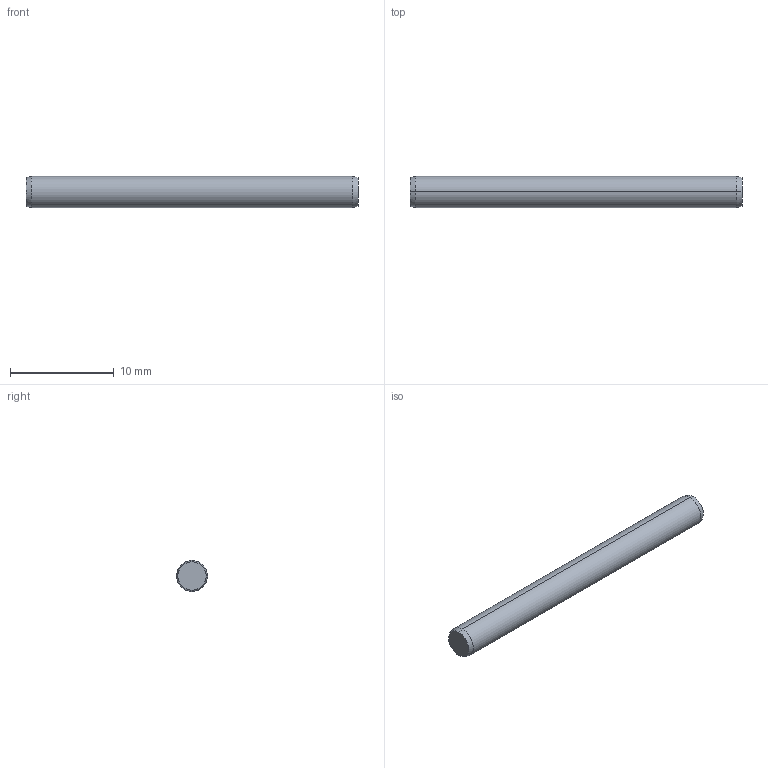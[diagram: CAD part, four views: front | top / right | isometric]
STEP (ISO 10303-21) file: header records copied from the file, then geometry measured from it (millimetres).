
FILE_DESCRIPTION (( 'STEP AP203' ), '1' );
FILE_NAME ('P1206.030-032.step', '2017-06-14T08:06:35', ( 'User' ), ( '' ), 'SwSTEP 2.0', 'SolidWorks 2009', '' );
FILE_SCHEMA (( 'CONFIG_CONTROL_DESIGN' ));
Length unit declared in the file: millimetre
Products named in the file (1): P1206.030-032
Bounding box: 32 x 3 x 3 mm (x, y, z)
Volume: 225.6 mm3; surface area: 313.2 mm2
Topology: 1 solids, 1 shells, 8 faces, 14 edges, 8 vertices
Faces by surface type: cone 4, cylinder 2, plane 2
Entity records: 271 total; most frequent: DIRECTION 40, CARTESIAN_POINT 31, ORIENTED_EDGE 28, AXIS2_PLACEMENT_3D 17, EDGE_CURVE 14, PERSON_AND_ORGANIZATION 8, CIRCLE 8, FACE_OUTER_BOUND 8
